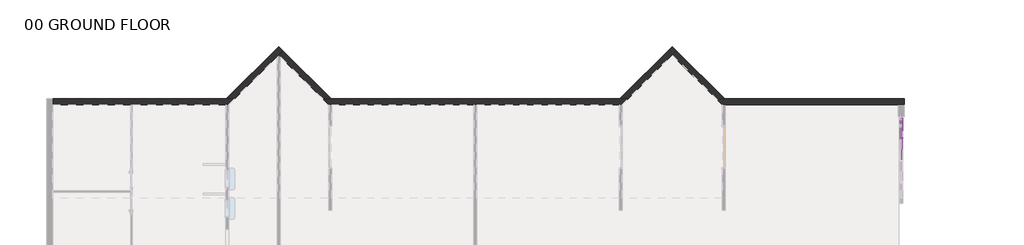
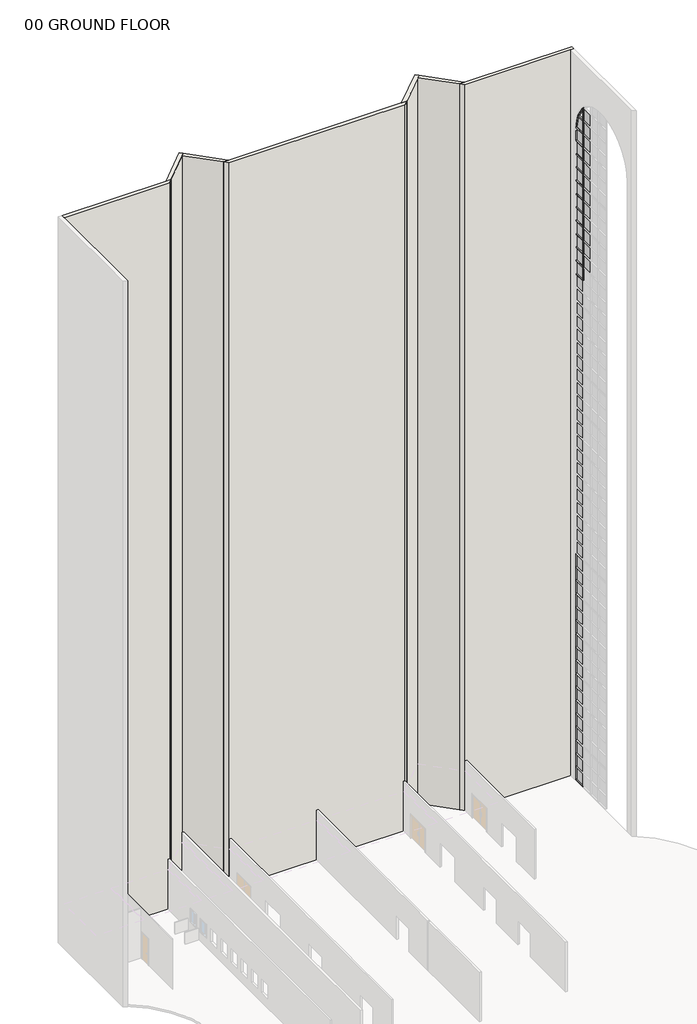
# One storey, part 32 of 33: 62 plates, 48 members, 7 walls.
"""IFC4 building model written with IfcOpenShell, lengths in millimetres."""

from ifc_helpers import new_model, si_unit, origin, origin_with_axes, place, context, project, spatial, polyline, outline, extrude, faceted_brep, transform, mapped, element, save
from components import member_c8ecf2e3, member_c70f70ef, member_2b49869a, member_daa0d148, member_ba1b3d85, member_7098706b, member_828826df, member_e05e2410, member_c2258df4, member_73c23c35, member_75074519, system_panel_glazed_32064c29, system_panel_glazed_ab954ee1, system_panel_glazed_ba000c98, system_panel_glazed_9b633421, system_panel_glazed_97e10390

model = new_model("IFC4")

# Units and contexts
model_context = context("Model", 3, world=origin())
ifc_project = project(units=[si_unit("LENGTHUNIT", "METRE", prefix="MILLI")], contexts=[model_context])

# Site, building, storey
site = spatial("IfcSite", under=ifc_project)
building = spatial("IfcBuilding", under=site)
storey = spatial("IfcBuildingStorey", under=building, Name="00 GROUND FLOOR", Elevation=0.0)

# Members
placement = place(None, origin())
member_shape = member_c8ecf2e3(model_context)
element("IfcMember", 1, ObjectType="Rectangular Mullion : 2.5\" x 5\" rectangular", at=placement, inside=storey, context=model_context, shape_type="MappedRepresentation", body=[
    mapped(member_shape, transform((44184.4050515, 33010.475, 0.0), x_axis=(0.0, 0.0, -1.0), y_axis=(-1.0, 0.0, 0.0), z_axis=(0.0, 1.0, 0.0))),
])
member_2_shape = member_c70f70ef(model_context)
element("IfcMember", 2, ObjectType="Rectangular Mullion : 2.5\" x 5\" rectangular", at=placement, inside=storey, context=model_context, shape_type="MappedRepresentation", body=[
    mapped(member_2_shape, transform((44184.4050515, 31973.6107141, 46329.6), x_axis=(0.0, 0.0, 1.0), y_axis=(-1.0, 0.0, 0.0), z_axis=(0.0, -1.0, 0.0))),
])
element("IfcMember", 3, ObjectType="Rectangular Mullion : 2.5\" x 5\" rectangular", at=placement, inside=storey, context=model_context, shape_type="MappedRepresentation", body=[
    mapped(member_2_shape, transform((44184.4050515, 31973.6107141, 47548.8), x_axis=(0.0, 0.0, 1.0), y_axis=(-1.0, 0.0, 0.0), z_axis=(0.0, -1.0, 0.0))),
])
element("IfcMember", 4, ObjectType="Rectangular Mullion : 2.5\" x 5\" rectangular", at=placement, inside=storey, context=model_context, shape_type="MappedRepresentation", body=[
    mapped(member_2_shape, transform((44184.4050515, 31973.6107141, 48768.0), x_axis=(0.0, 0.0, 1.0), y_axis=(-1.0, 0.0, 0.0), z_axis=(0.0, -1.0, 0.0))),
])
element("IfcMember", 5, ObjectType="Rectangular Mullion : 2.5\" x 5\" rectangular", at=placement, inside=storey, context=model_context, shape_type="MappedRepresentation", body=[
    mapped(member_2_shape, transform((44184.4050515, 31973.6107141, 49987.2), x_axis=(0.0, 0.0, 1.0), y_axis=(-1.0, 0.0, 0.0), z_axis=(0.0, -1.0, 0.0))),
])
element("IfcMember", 6, ObjectType="Rectangular Mullion : 2.5\" x 5\" rectangular", at=placement, inside=storey, context=model_context, shape_type="MappedRepresentation", body=[
    mapped(member_2_shape, transform((44184.4050515, 31973.6107141, 51206.4), x_axis=(0.0, 0.0, 1.0), y_axis=(-1.0, 0.0, 0.0), z_axis=(0.0, -1.0, 0.0))),
])
element("IfcMember", 7, ObjectType="Rectangular Mullion : 2.5\" x 5\" rectangular", at=placement, inside=storey, context=model_context, shape_type="MappedRepresentation", body=[
    mapped(member_2_shape, transform((44184.4050515, 31973.6107141, 52425.6), x_axis=(0.0, 0.0, 1.0), y_axis=(-1.0, 0.0, 0.0), z_axis=(0.0, -1.0, 0.0))),
])
element("IfcMember", 8, ObjectType="Rectangular Mullion : 2.5\" x 5\" rectangular", at=placement, inside=storey, context=model_context, shape_type="MappedRepresentation", body=[
    mapped(member_2_shape, transform((44184.4050515, 31973.6107141, 53644.8), x_axis=(0.0, 0.0, 1.0), y_axis=(-1.0, 0.0, 0.0), z_axis=(0.0, -1.0, 0.0))),
])
element("IfcMember", 9, ObjectType="Rectangular Mullion : 2.5\" x 5\" rectangular", at=placement, inside=storey, context=model_context, shape_type="MappedRepresentation", body=[
    mapped(member_2_shape, transform((44184.4050515, 31973.6107141, 54864.0), x_axis=(0.0, 0.0, 1.0), y_axis=(-1.0, 0.0, 0.0), z_axis=(0.0, -1.0, 0.0))),
])
element("IfcMember", 10, ObjectType="Rectangular Mullion : 2.5\" x 5\" rectangular", at=placement, inside=storey, context=model_context, shape_type="MappedRepresentation", body=[
    mapped(member_2_shape, transform((44184.4050515, 31973.6107141, 56083.2), x_axis=(0.0, 0.0, 1.0), y_axis=(-1.0, 0.0, 0.0), z_axis=(0.0, -1.0, 0.0))),
])
element("IfcMember", 11, ObjectType="Rectangular Mullion : 2.5\" x 5\" rectangular", at=placement, inside=storey, context=model_context, shape_type="MappedRepresentation", body=[
    mapped(member_2_shape, transform((44184.4050515, 31973.6107141, 57302.4), x_axis=(0.0, 0.0, 1.0), y_axis=(-1.0, 0.0, 0.0), z_axis=(0.0, -1.0, 0.0))),
])
element("IfcMember", 12, ObjectType="Rectangular Mullion : 2.5\" x 5\" rectangular", at=placement, inside=storey, context=model_context, shape_type="MappedRepresentation", body=[
    mapped(member_2_shape, transform((44184.4050515, 31973.6107141, 58521.6), x_axis=(0.0, 0.0, 1.0), y_axis=(-1.0, 0.0, 0.0), z_axis=(0.0, -1.0, 0.0))),
])
member_3_shape = member_2b49869a(model_context)
element("IfcMember", 13, ObjectType="Rectangular Mullion : 2.5\" x 5\" rectangular", at=placement, inside=storey, context=model_context, shape_type="MappedRepresentation", body=[
    mapped(member_3_shape, transform((44184.4050515, 31941.8607141, 46329.6), x_axis=(0.0, -1.0, 0.0), y_axis=(-1.0, 0.0, 0.0), z_axis=(0.0, 0.0, -1.0))),
])
element("IfcMember", 14, ObjectType="Rectangular Mullion : 2.5\" x 5\" rectangular", at=placement, inside=storey, context=model_context, shape_type="MappedRepresentation", body=[
    mapped(member_3_shape, transform((44184.4050515, 31941.8607141, 47548.8), x_axis=(0.0, -1.0, 0.0), y_axis=(-1.0, 0.0, 0.0), z_axis=(0.0, 0.0, -1.0))),
])
element("IfcMember", 15, ObjectType="Rectangular Mullion : 2.5\" x 5\" rectangular", at=placement, inside=storey, context=model_context, shape_type="MappedRepresentation", body=[
    mapped(member_3_shape, transform((44184.4050515, 31941.8607141, 48768.0), x_axis=(0.0, -1.0, 0.0), y_axis=(-1.0, 0.0, 0.0), z_axis=(0.0, 0.0, -1.0))),
])
element("IfcMember", 16, ObjectType="Rectangular Mullion : 2.5\" x 5\" rectangular", at=placement, inside=storey, context=model_context, shape_type="MappedRepresentation", body=[
    mapped(member_3_shape, transform((44184.4050515, 31941.8607141, 49987.2), x_axis=(0.0, -1.0, 0.0), y_axis=(-1.0, 0.0, 0.0), z_axis=(0.0, 0.0, -1.0))),
])
element("IfcMember", 17, ObjectType="Rectangular Mullion : 2.5\" x 5\" rectangular", at=placement, inside=storey, context=model_context, shape_type="MappedRepresentation", body=[
    mapped(member_3_shape, transform((44184.4050515, 31941.8607141, 51206.4), x_axis=(0.0, -1.0, 0.0), y_axis=(-1.0, 0.0, 0.0), z_axis=(0.0, 0.0, -1.0))),
])
element("IfcMember", 18, ObjectType="Rectangular Mullion : 2.5\" x 5\" rectangular", at=placement, inside=storey, context=model_context, shape_type="MappedRepresentation", body=[
    mapped(member_3_shape, transform((44184.4050515, 31941.8607141, 52425.6), x_axis=(0.0, -1.0, 0.0), y_axis=(-1.0, 0.0, 0.0), z_axis=(0.0, 0.0, -1.0))),
])
element("IfcMember", 19, ObjectType="Rectangular Mullion : 2.5\" x 5\" rectangular", at=placement, inside=storey, context=model_context, shape_type="MappedRepresentation", body=[
    mapped(member_3_shape, transform((44184.4050515, 31941.8607141, 53644.8), x_axis=(0.0, -1.0, 0.0), y_axis=(-1.0, 0.0, 0.0), z_axis=(0.0, 0.0, -1.0))),
])
element("IfcMember", 20, ObjectType="Rectangular Mullion : 2.5\" x 5\" rectangular", at=placement, inside=storey, context=model_context, shape_type="MappedRepresentation", body=[
    mapped(member_3_shape, transform((44184.4050515, 31941.8607141, 54864.0), x_axis=(0.0, -1.0, 0.0), y_axis=(-1.0, 0.0, 0.0), z_axis=(0.0, 0.0, -1.0))),
])
element("IfcMember", 21, ObjectType="Rectangular Mullion : 2.5\" x 5\" rectangular", at=placement, inside=storey, context=model_context, shape_type="MappedRepresentation", body=[
    mapped(member_3_shape, transform((44184.4050515, 31941.8607141, 56083.2), x_axis=(0.0, -1.0, 0.0), y_axis=(-1.0, 0.0, 0.0), z_axis=(0.0, 0.0, -1.0))),
])
element("IfcMember", 22, ObjectType="Rectangular Mullion : 2.5\" x 5\" rectangular", at=placement, inside=storey, context=model_context, shape_type="MappedRepresentation", body=[
    mapped(member_3_shape, transform((44184.4050515, 31941.8607141, 57302.4), x_axis=(0.0, -1.0, 0.0), y_axis=(-1.0, 0.0, 0.0), z_axis=(0.0, 0.0, -1.0))),
])
element("IfcMember", 23, ObjectType="Rectangular Mullion : 2.5\" x 5\" rectangular", at=placement, inside=storey, context=model_context, shape_type="MappedRepresentation", body=[
    mapped(member_3_shape, transform((44184.4050515, 31941.8607141, 58521.6), x_axis=(0.0, -1.0, 0.0), y_axis=(-1.0, 0.0, 0.0), z_axis=(0.0, 0.0, -1.0))),
])
element("IfcMember", 24, ObjectType="Rectangular Mullion : 2.5\" x 5\" rectangular", at=placement, inside=storey, context=model_context, shape_type="MappedRepresentation", body=[
    mapped(member_3_shape, transform((44184.4050515, 31941.8607141, 59740.8), x_axis=(0.0, -1.0, 0.0), y_axis=(-1.0, 0.0, 0.0), z_axis=(0.0, 0.0, -1.0))),
])
member_4_shape = member_daa0d148(model_context)
element("IfcMember", 25, ObjectType="Rectangular Mullion : 2.5\" x 5\" rectangular", at=placement, inside=storey, context=model_context, shape_type="MappedRepresentation", body=[
    mapped(member_4_shape, transform((44184.4050515, 31941.8607141, 62209.1023307), x_axis=(0.0, 0.7142857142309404, 0.6998542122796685), y_axis=(-1.0, 0.0, 0.0), z_axis=(0.0, -0.6998542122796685, 0.7142857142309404))),
])
member_5_shape = member_ba1b3d85(model_context)
element("IfcMember", 26, ObjectType="Rectangular Mullion : 2.5\" x 5\" rectangular", at=placement, inside=storey, context=model_context, shape_type="MappedRepresentation", body=[
    mapped(member_5_shape, transform((44184.4050515, 31941.8607141, 60960.0), x_axis=(0.0, -1.0, 0.0), y_axis=(-1.0, 0.0, 0.0), z_axis=(0.0, 0.0, -1.0))),
])
member_6_shape = member_7098706b(model_context)
element("IfcMember", 27, ObjectType="Rectangular Mullion : 2.5\" x 5\" rectangular", at=placement, inside=storey, context=model_context, shape_type="MappedRepresentation", body=[
    mapped(member_6_shape, transform((44184.4050515, 32769.175, 60960.0), x_axis=(0.0, 0.9230769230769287, 0.3846153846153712), y_axis=(-1.0, 0.0, 0.0), z_axis=(0.0, -0.3846153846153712, 0.9230769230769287))),
])
member_7_shape = member_828826df(model_context)
element("IfcMember", 28, ObjectType="Rectangular Mullion : 2.5\" x 5\" rectangular", at=placement, inside=storey, context=model_context, shape_type="MappedRepresentation", body=[
    mapped(member_7_shape, transform((44184.4050515, 31970.8524472, 62179.2), x_axis=(0.0, 0.7216024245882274, 0.6923076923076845), y_axis=(-1.0, 0.0, 0.0), z_axis=(0.0, -0.6923076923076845, 0.7216024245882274))),
])
member_8_shape = member_e05e2410(model_context)
element("IfcMember", 29, ObjectType="Rectangular Mullion : 2.5\" x 5\" rectangular", at=placement, inside=storey, context=model_context, shape_type="MappedRepresentation", body=[
    mapped(member_8_shape, transform((44184.4050515, 31973.6107141, 59740.8), x_axis=(0.0, 0.0, 1.0), y_axis=(-1.0, 0.0, 0.0), z_axis=(0.0, -1.0, 0.0))),
])
member_9_shape = member_c2258df4(model_context)
element("IfcMember", 30, ObjectType="Rectangular Mullion : 2.5\" x 5\" rectangular", at=placement, inside=storey, context=model_context, shape_type="MappedRepresentation", body=[
    mapped(member_9_shape, transform((44184.4050515, 31973.6107141, 60960.0), x_axis=(0.0, 0.0, 1.0), y_axis=(-1.0, 0.0, 0.0), z_axis=(0.0, -1.0, 0.0))),
])
member_10_shape = member_73c23c35(model_context)
element("IfcMember", 31, ObjectType="Rectangular Mullion : 2.5\" x 5\" rectangular", at=placement, inside=storey, context=model_context, shape_type="MappedRepresentation", body=[
    mapped(member_10_shape, transform((44184.4050515, 33073.975, 59436.0), x_axis=(0.0, 1.0, 0.0), y_axis=(-1.0, 0.0, 0.0), z_axis=(0.0, 0.0, 1.0))),
])
member_11_shape = member_75074519(model_context)
element("IfcMember", 32, ObjectType="Rectangular Mullion : 2.5\" x 5\" rectangular", at=placement, inside=storey, context=model_context, shape_type="MappedRepresentation", body=[
    mapped(member_11_shape, transform((44184.4050515, 33073.975, 1219.2), x_axis=(0.0, 1.0, 0.0), y_axis=(-1.0, 0.0, 0.0), z_axis=(0.0, 0.0, 1.0))),
])
element("IfcMember", 33, ObjectType="Rectangular Mullion : 2.5\" x 5\" rectangular", at=placement, inside=storey, context=model_context, shape_type="MappedRepresentation", body=[
    mapped(member_11_shape, transform((44184.4050515, 33073.975, 2438.4), x_axis=(0.0, 1.0, 0.0), y_axis=(-1.0, 0.0, 0.0), z_axis=(0.0, 0.0, 1.0))),
])
element("IfcMember", 34, ObjectType="Rectangular Mullion : 2.5\" x 5\" rectangular", at=placement, inside=storey, context=model_context, shape_type="MappedRepresentation", body=[
    mapped(member_11_shape, transform((44184.4050515, 33073.975, 3657.6), x_axis=(0.0, 1.0, 0.0), y_axis=(-1.0, 0.0, 0.0), z_axis=(0.0, 0.0, 1.0))),
])
element("IfcMember", 35, ObjectType="Rectangular Mullion : 2.5\" x 5\" rectangular", at=placement, inside=storey, context=model_context, shape_type="MappedRepresentation", body=[
    mapped(member_11_shape, transform((44184.4050515, 33073.975, 4876.8), x_axis=(0.0, 1.0, 0.0), y_axis=(-1.0, 0.0, 0.0), z_axis=(0.0, 0.0, 1.0))),
])
element("IfcMember", 36, ObjectType="Rectangular Mullion : 2.5\" x 5\" rectangular", at=placement, inside=storey, context=model_context, shape_type="MappedRepresentation", body=[
    mapped(member_11_shape, transform((44184.4050515, 33073.975, 6096.0), x_axis=(0.0, 1.0, 0.0), y_axis=(-1.0, 0.0, 0.0), z_axis=(0.0, 0.0, 1.0))),
])
element("IfcMember", 37, ObjectType="Rectangular Mullion : 2.5\" x 5\" rectangular", at=placement, inside=storey, context=model_context, shape_type="MappedRepresentation", body=[
    mapped(member_11_shape, transform((44184.4050515, 33073.975, 7315.2), x_axis=(0.0, 1.0, 0.0), y_axis=(-1.0, 0.0, 0.0), z_axis=(0.0, 0.0, 1.0))),
])
element("IfcMember", 38, ObjectType="Rectangular Mullion : 2.5\" x 5\" rectangular", at=placement, inside=storey, context=model_context, shape_type="MappedRepresentation", body=[
    mapped(member_11_shape, transform((44184.4050515, 33073.975, 8534.4), x_axis=(0.0, 1.0, 0.0), y_axis=(-1.0, 0.0, 0.0), z_axis=(0.0, 0.0, 1.0))),
])
element("IfcMember", 39, ObjectType="Rectangular Mullion : 2.5\" x 5\" rectangular", at=placement, inside=storey, context=model_context, shape_type="MappedRepresentation", body=[
    mapped(member_11_shape, transform((44184.4050515, 33073.975, 9753.6), x_axis=(0.0, 1.0, 0.0), y_axis=(-1.0, 0.0, 0.0), z_axis=(0.0, 0.0, 1.0))),
])
element("IfcMember", 40, ObjectType="Rectangular Mullion : 2.5\" x 5\" rectangular", at=placement, inside=storey, context=model_context, shape_type="MappedRepresentation", body=[
    mapped(member_11_shape, transform((44184.4050515, 33073.975, 10972.8), x_axis=(0.0, 1.0, 0.0), y_axis=(-1.0, 0.0, 0.0), z_axis=(0.0, 0.0, 1.0))),
])
element("IfcMember", 41, ObjectType="Rectangular Mullion : 2.5\" x 5\" rectangular", at=placement, inside=storey, context=model_context, shape_type="MappedRepresentation", body=[
    mapped(member_11_shape, transform((44184.4050515, 33073.975, 12192.0), x_axis=(0.0, 1.0, 0.0), y_axis=(-1.0, 0.0, 0.0), z_axis=(0.0, 0.0, 1.0))),
])
element("IfcMember", 42, ObjectType="Rectangular Mullion : 2.5\" x 5\" rectangular", at=placement, inside=storey, context=model_context, shape_type="MappedRepresentation", body=[
    mapped(member_11_shape, transform((44184.4050515, 33073.975, 13411.2), x_axis=(0.0, 1.0, 0.0), y_axis=(-1.0, 0.0, 0.0), z_axis=(0.0, 0.0, 1.0))),
])
element("IfcMember", 43, ObjectType="Rectangular Mullion : 2.5\" x 5\" rectangular", at=placement, inside=storey, context=model_context, shape_type="MappedRepresentation", body=[
    mapped(member_11_shape, transform((44184.4050515, 33073.975, 14630.4), x_axis=(0.0, 1.0, 0.0), y_axis=(-1.0, 0.0, 0.0), z_axis=(0.0, 0.0, 1.0))),
])
element("IfcMember", 44, ObjectType="Rectangular Mullion : 2.5\" x 5\" rectangular", at=placement, inside=storey, context=model_context, shape_type="MappedRepresentation", body=[
    mapped(member_11_shape, transform((44184.4050515, 33073.975, 15849.6), x_axis=(0.0, 1.0, 0.0), y_axis=(-1.0, 0.0, 0.0), z_axis=(0.0, 0.0, 1.0))),
])
element("IfcMember", 45, ObjectType="Rectangular Mullion : 2.5\" x 5\" rectangular", at=placement, inside=storey, context=model_context, shape_type="MappedRepresentation", body=[
    mapped(member_11_shape, transform((44184.4050515, 33073.975, 17068.8), x_axis=(0.0, 1.0, 0.0), y_axis=(-1.0, 0.0, 0.0), z_axis=(0.0, 0.0, 1.0))),
])
element("IfcMember", 46, ObjectType="Rectangular Mullion : 2.5\" x 5\" rectangular", at=placement, inside=storey, context=model_context, shape_type="MappedRepresentation", body=[
    mapped(member_11_shape, transform((44184.4050515, 33073.975, 18288.0), x_axis=(0.0, 1.0, 0.0), y_axis=(-1.0, 0.0, 0.0), z_axis=(0.0, 0.0, 1.0))),
])
element("IfcMember", 47, ObjectType="Rectangular Mullion : 2.5\" x 5\" rectangular", at=placement, inside=storey, context=model_context, shape_type="MappedRepresentation", body=[
    mapped(member_11_shape, transform((44184.4050515, 33073.975, 19507.2), x_axis=(0.0, 1.0, 0.0), y_axis=(-1.0, 0.0, 0.0), z_axis=(0.0, 0.0, 1.0))),
])
element("IfcMember", 48, ObjectType="Rectangular Mullion : 2.5\" x 5\" rectangular", at=placement, inside=storey, context=model_context, shape_type="MappedRepresentation", body=[
    mapped(member_11_shape, transform((44184.4050515, 33073.975, 20726.4), x_axis=(0.0, 1.0, 0.0), y_axis=(-1.0, 0.0, 0.0), z_axis=(0.0, 0.0, 1.0))),
])

# Plates
system_panel_glazed_shape = system_panel_glazed_32064c29(model_context)
element("IfcPlate", 49, ObjectType="System Panel : Glazed", at=placement, inside=storey, context=model_context, shape_type="MappedRepresentation", body=[
    mapped(system_panel_glazed_shape, transform((44184.4050515, 32492.042857, 63.5), x_axis=(0.0, -1.0, 0.0), y_axis=(1.0, 0.0, 0.0), z_axis=(0.0, 0.0, 1.0))),
])
system_panel_glazed_2_shape = system_panel_glazed_ab954ee1(model_context)
element("IfcPlate", 50, ObjectType="System Panel : Glazed", at=placement, inside=storey, context=model_context, shape_type="MappedRepresentation", body=[
    mapped(system_panel_glazed_2_shape, transform((44184.4050515, 32492.042857, 1250.95), x_axis=(0.0, -1.0, 0.0), y_axis=(1.0, 0.0, 0.0), z_axis=(0.0, 0.0, 1.0))),
])
element("IfcPlate", 51, ObjectType="System Panel : Glazed", at=placement, inside=storey, context=model_context, shape_type="MappedRepresentation", body=[
    mapped(system_panel_glazed_2_shape, transform((44184.4050515, 32492.042857, 2470.15), x_axis=(0.0, -1.0, 0.0), y_axis=(1.0, 0.0, 0.0), z_axis=(0.0, 0.0, 1.0))),
])
element("IfcPlate", 52, ObjectType="System Panel : Glazed", at=placement, inside=storey, context=model_context, shape_type="MappedRepresentation", body=[
    mapped(system_panel_glazed_2_shape, transform((44184.4050515, 32492.042857, 3689.35), x_axis=(0.0, -1.0, 0.0), y_axis=(1.0, 0.0, 0.0), z_axis=(0.0, 0.0, 1.0))),
])
element("IfcPlate", 53, ObjectType="System Panel : Glazed", at=placement, inside=storey, context=model_context, shape_type="MappedRepresentation", body=[
    mapped(system_panel_glazed_2_shape, transform((44184.4050515, 32492.042857, 4908.55), x_axis=(0.0, -1.0, 0.0), y_axis=(1.0, 0.0, 0.0), z_axis=(0.0, 0.0, 1.0))),
])
element("IfcPlate", 54, ObjectType="System Panel : Glazed", at=placement, inside=storey, context=model_context, shape_type="MappedRepresentation", body=[
    mapped(system_panel_glazed_2_shape, transform((44184.4050515, 32492.042857, 6127.75), x_axis=(0.0, -1.0, 0.0), y_axis=(1.0, 0.0, 0.0), z_axis=(0.0, 0.0, 1.0))),
])
element("IfcPlate", 55, ObjectType="System Panel : Glazed", at=placement, inside=storey, context=model_context, shape_type="MappedRepresentation", body=[
    mapped(system_panel_glazed_2_shape, transform((44184.4050515, 32492.042857, 7346.95), x_axis=(0.0, -1.0, 0.0), y_axis=(1.0, 0.0, 0.0), z_axis=(0.0, 0.0, 1.0))),
])
element("IfcPlate", 56, ObjectType="System Panel : Glazed", at=placement, inside=storey, context=model_context, shape_type="MappedRepresentation", body=[
    mapped(system_panel_glazed_2_shape, transform((44184.4050515, 32492.042857, 8566.15), x_axis=(0.0, -1.0, 0.0), y_axis=(1.0, 0.0, 0.0), z_axis=(0.0, 0.0, 1.0))),
])
element("IfcPlate", 57, ObjectType="System Panel : Glazed", at=placement, inside=storey, context=model_context, shape_type="MappedRepresentation", body=[
    mapped(system_panel_glazed_2_shape, transform((44184.4050515, 32492.042857, 9785.35), x_axis=(0.0, -1.0, 0.0), y_axis=(1.0, 0.0, 0.0), z_axis=(0.0, 0.0, 1.0))),
])
element("IfcPlate", 58, ObjectType="System Panel : Glazed", at=placement, inside=storey, context=model_context, shape_type="MappedRepresentation", body=[
    mapped(system_panel_glazed_2_shape, transform((44184.4050515, 32492.042857, 11004.55), x_axis=(0.0, -1.0, 0.0), y_axis=(1.0, 0.0, 0.0), z_axis=(0.0, 0.0, 1.0))),
])
element("IfcPlate", 59, ObjectType="System Panel : Glazed", at=placement, inside=storey, context=model_context, shape_type="MappedRepresentation", body=[
    mapped(system_panel_glazed_2_shape, transform((44184.4050515, 32492.042857, 12223.75), x_axis=(0.0, -1.0, 0.0), y_axis=(1.0, 0.0, 0.0), z_axis=(0.0, 0.0, 1.0))),
])
element("IfcPlate", 60, ObjectType="System Panel : Glazed", at=placement, inside=storey, context=model_context, shape_type="MappedRepresentation", body=[
    mapped(system_panel_glazed_2_shape, transform((44184.4050515, 32492.042857, 13442.95), x_axis=(0.0, -1.0, 0.0), y_axis=(1.0, 0.0, 0.0), z_axis=(0.0, 0.0, 1.0))),
])
element("IfcPlate", 61, ObjectType="System Panel : Glazed", at=placement, inside=storey, context=model_context, shape_type="MappedRepresentation", body=[
    mapped(system_panel_glazed_2_shape, transform((44184.4050515, 32492.042857, 14662.15), x_axis=(0.0, -1.0, 0.0), y_axis=(1.0, 0.0, 0.0), z_axis=(0.0, 0.0, 1.0))),
])
element("IfcPlate", 62, ObjectType="System Panel : Glazed", at=placement, inside=storey, context=model_context, shape_type="MappedRepresentation", body=[
    mapped(system_panel_glazed_2_shape, transform((44184.4050515, 32492.042857, 15881.35), x_axis=(0.0, -1.0, 0.0), y_axis=(1.0, 0.0, 0.0), z_axis=(0.0, 0.0, 1.0))),
])
element("IfcPlate", 63, ObjectType="System Panel : Glazed", at=placement, inside=storey, context=model_context, shape_type="MappedRepresentation", body=[
    mapped(system_panel_glazed_2_shape, transform((44184.4050515, 32492.042857, 17100.55), x_axis=(0.0, -1.0, 0.0), y_axis=(1.0, 0.0, 0.0), z_axis=(0.0, 0.0, 1.0))),
])
element("IfcPlate", 64, ObjectType="System Panel : Glazed", at=placement, inside=storey, context=model_context, shape_type="MappedRepresentation", body=[
    mapped(system_panel_glazed_2_shape, transform((44184.4050515, 32492.042857, 18319.75), x_axis=(0.0, -1.0, 0.0), y_axis=(1.0, 0.0, 0.0), z_axis=(0.0, 0.0, 1.0))),
])
element("IfcPlate", 65, ObjectType="System Panel : Glazed", at=placement, inside=storey, context=model_context, shape_type="MappedRepresentation", body=[
    mapped(system_panel_glazed_2_shape, transform((44184.4050515, 32492.042857, 19538.95), x_axis=(0.0, -1.0, 0.0), y_axis=(1.0, 0.0, 0.0), z_axis=(0.0, 0.0, 1.0))),
])
element("IfcPlate", 66, ObjectType="System Panel : Glazed", at=placement, inside=storey, context=model_context, shape_type="MappedRepresentation", body=[
    mapped(system_panel_glazed_2_shape, transform((44184.4050515, 32492.042857, 20758.15), x_axis=(0.0, -1.0, 0.0), y_axis=(1.0, 0.0, 0.0), z_axis=(0.0, 0.0, 1.0))),
])
element("IfcPlate", 67, ObjectType="System Panel : Glazed", at=placement, inside=storey, context=model_context, shape_type="MappedRepresentation", body=[
    mapped(system_panel_glazed_2_shape, transform((44184.4050515, 32492.042857, 21977.35), x_axis=(0.0, -1.0, 0.0), y_axis=(1.0, 0.0, 0.0), z_axis=(0.0, 0.0, 1.0))),
])
element("IfcPlate", 68, ObjectType="System Panel : Glazed", at=placement, inside=storey, context=model_context, shape_type="MappedRepresentation", body=[
    mapped(system_panel_glazed_2_shape, transform((44184.4050515, 32492.042857, 23196.55), x_axis=(0.0, -1.0, 0.0), y_axis=(1.0, 0.0, 0.0), z_axis=(0.0, 0.0, 1.0))),
])
element("IfcPlate", 69, ObjectType="System Panel : Glazed", at=placement, inside=storey, context=model_context, shape_type="MappedRepresentation", body=[
    mapped(system_panel_glazed_2_shape, transform((44184.4050515, 32492.042857, 24415.75), x_axis=(0.0, -1.0, 0.0), y_axis=(1.0, 0.0, 0.0), z_axis=(0.0, 0.0, 1.0))),
])
element("IfcPlate", 70, ObjectType="System Panel : Glazed", at=placement, inside=storey, context=model_context, shape_type="MappedRepresentation", body=[
    mapped(system_panel_glazed_2_shape, transform((44184.4050515, 32492.042857, 25634.95), x_axis=(0.0, -1.0, 0.0), y_axis=(1.0, 0.0, 0.0), z_axis=(0.0, 0.0, 1.0))),
])
element("IfcPlate", 71, ObjectType="System Panel : Glazed", at=placement, inside=storey, context=model_context, shape_type="MappedRepresentation", body=[
    mapped(system_panel_glazed_2_shape, transform((44184.4050515, 32492.042857, 26854.15), x_axis=(0.0, -1.0, 0.0), y_axis=(1.0, 0.0, 0.0), z_axis=(0.0, 0.0, 1.0))),
])
element("IfcPlate", 72, ObjectType="System Panel : Glazed", at=placement, inside=storey, context=model_context, shape_type="MappedRepresentation", body=[
    mapped(system_panel_glazed_2_shape, transform((44184.4050515, 32492.042857, 28073.35), x_axis=(0.0, -1.0, 0.0), y_axis=(1.0, 0.0, 0.0), z_axis=(0.0, 0.0, 1.0))),
])
element("IfcPlate", 73, ObjectType="System Panel : Glazed", at=placement, inside=storey, context=model_context, shape_type="MappedRepresentation", body=[
    mapped(system_panel_glazed_2_shape, transform((44184.4050515, 32492.042857, 29292.55), x_axis=(0.0, -1.0, 0.0), y_axis=(1.0, 0.0, 0.0), z_axis=(0.0, 0.0, 1.0))),
])
element("IfcPlate", 74, ObjectType="System Panel : Glazed", at=placement, inside=storey, context=model_context, shape_type="MappedRepresentation", body=[
    mapped(system_panel_glazed_2_shape, transform((44184.4050515, 32492.042857, 30511.75), x_axis=(0.0, -1.0, 0.0), y_axis=(1.0, 0.0, 0.0), z_axis=(0.0, 0.0, 1.0))),
])
element("IfcPlate", 75, ObjectType="System Panel : Glazed", at=placement, inside=storey, context=model_context, shape_type="MappedRepresentation", body=[
    mapped(system_panel_glazed_2_shape, transform((44184.4050515, 32492.042857, 31730.95), x_axis=(0.0, -1.0, 0.0), y_axis=(1.0, 0.0, 0.0), z_axis=(0.0, 0.0, 1.0))),
])
element("IfcPlate", 76, ObjectType="System Panel : Glazed", at=placement, inside=storey, context=model_context, shape_type="MappedRepresentation", body=[
    mapped(system_panel_glazed_2_shape, transform((44184.4050515, 32492.042857, 32950.15), x_axis=(0.0, -1.0, 0.0), y_axis=(1.0, 0.0, 0.0), z_axis=(0.0, 0.0, 1.0))),
])
element("IfcPlate", 77, ObjectType="System Panel : Glazed", at=placement, inside=storey, context=model_context, shape_type="MappedRepresentation", body=[
    mapped(system_panel_glazed_2_shape, transform((44184.4050515, 32492.042857, 34169.35), x_axis=(0.0, -1.0, 0.0), y_axis=(1.0, 0.0, 0.0), z_axis=(0.0, 0.0, 1.0))),
])
element("IfcPlate", 78, ObjectType="System Panel : Glazed", at=placement, inside=storey, context=model_context, shape_type="MappedRepresentation", body=[
    mapped(system_panel_glazed_2_shape, transform((44184.4050515, 32492.042857, 35388.55), x_axis=(0.0, -1.0, 0.0), y_axis=(1.0, 0.0, 0.0), z_axis=(0.0, 0.0, 1.0))),
])
element("IfcPlate", 79, ObjectType="System Panel : Glazed", at=placement, inside=storey, context=model_context, shape_type="MappedRepresentation", body=[
    mapped(system_panel_glazed_2_shape, transform((44184.4050515, 32492.042857, 36607.75), x_axis=(0.0, -1.0, 0.0), y_axis=(1.0, 0.0, 0.0), z_axis=(0.0, 0.0, 1.0))),
])
element("IfcPlate", 80, ObjectType="System Panel : Glazed", at=placement, inside=storey, context=model_context, shape_type="MappedRepresentation", body=[
    mapped(system_panel_glazed_2_shape, transform((44184.4050515, 32492.042857, 37826.95), x_axis=(0.0, -1.0, 0.0), y_axis=(1.0, 0.0, 0.0), z_axis=(0.0, 0.0, 1.0))),
])
element("IfcPlate", 81, ObjectType="System Panel : Glazed", at=placement, inside=storey, context=model_context, shape_type="MappedRepresentation", body=[
    mapped(system_panel_glazed_2_shape, transform((44184.4050515, 32492.042857, 39046.15), x_axis=(0.0, -1.0, 0.0), y_axis=(1.0, 0.0, 0.0), z_axis=(0.0, 0.0, 1.0))),
])
element("IfcPlate", 82, ObjectType="System Panel : Glazed", at=placement, inside=storey, context=model_context, shape_type="MappedRepresentation", body=[
    mapped(system_panel_glazed_2_shape, transform((44184.4050515, 32492.042857, 40265.35), x_axis=(0.0, -1.0, 0.0), y_axis=(1.0, 0.0, 0.0), z_axis=(0.0, 0.0, 1.0))),
])
element("IfcPlate", 83, ObjectType="System Panel : Glazed", at=placement, inside=storey, context=model_context, shape_type="MappedRepresentation", body=[
    mapped(system_panel_glazed_2_shape, transform((44184.4050515, 32492.042857, 41484.55), x_axis=(0.0, -1.0, 0.0), y_axis=(1.0, 0.0, 0.0), z_axis=(0.0, 0.0, 1.0))),
])
element("IfcPlate", 84, ObjectType="System Panel : Glazed", at=placement, inside=storey, context=model_context, shape_type="MappedRepresentation", body=[
    mapped(system_panel_glazed_2_shape, transform((44184.4050515, 32492.042857, 42703.75), x_axis=(0.0, -1.0, 0.0), y_axis=(1.0, 0.0, 0.0), z_axis=(0.0, 0.0, 1.0))),
])
element("IfcPlate", 85, ObjectType="System Panel : Glazed", at=placement, inside=storey, context=model_context, shape_type="MappedRepresentation", body=[
    mapped(system_panel_glazed_2_shape, transform((44184.4050515, 32492.042857, 43922.95), x_axis=(0.0, -1.0, 0.0), y_axis=(1.0, 0.0, 0.0), z_axis=(0.0, 0.0, 1.0))),
])
element("IfcPlate", 86, ObjectType="System Panel : Glazed", at=placement, inside=storey, context=model_context, shape_type="MappedRepresentation", body=[
    mapped(system_panel_glazed_2_shape, transform((44184.4050515, 32492.042857, 45142.15), x_axis=(0.0, -1.0, 0.0), y_axis=(1.0, 0.0, 0.0), z_axis=(0.0, 0.0, 1.0))),
])
element("IfcPlate", 87, ObjectType="System Panel : Glazed", at=placement, inside=storey, context=model_context, shape_type="MappedRepresentation", body=[
    mapped(system_panel_glazed_2_shape, transform((44184.4050515, 32492.042857, 46361.35), x_axis=(0.0, -1.0, 0.0), y_axis=(1.0, 0.0, 0.0), z_axis=(0.0, 0.0, 1.0))),
])
element("IfcPlate", 88, ObjectType="System Panel : Glazed", at=placement, inside=storey, context=model_context, shape_type="MappedRepresentation", body=[
    mapped(system_panel_glazed_2_shape, transform((44184.4050515, 32492.042857, 47580.55), x_axis=(0.0, -1.0, 0.0), y_axis=(1.0, 0.0, 0.0), z_axis=(0.0, 0.0, 1.0))),
])
element("IfcPlate", 89, ObjectType="System Panel : Glazed", at=placement, inside=storey, context=model_context, shape_type="MappedRepresentation", body=[
    mapped(system_panel_glazed_2_shape, transform((44184.4050515, 32492.042857, 48799.75), x_axis=(0.0, -1.0, 0.0), y_axis=(1.0, 0.0, 0.0), z_axis=(0.0, 0.0, 1.0))),
])
element("IfcPlate", 90, ObjectType="System Panel : Glazed", at=placement, inside=storey, context=model_context, shape_type="MappedRepresentation", body=[
    mapped(system_panel_glazed_2_shape, transform((44184.4050515, 32492.042857, 50018.95), x_axis=(0.0, -1.0, 0.0), y_axis=(1.0, 0.0, 0.0), z_axis=(0.0, 0.0, 1.0))),
])
element("IfcPlate", 91, ObjectType="System Panel : Glazed", at=placement, inside=storey, context=model_context, shape_type="MappedRepresentation", body=[
    mapped(system_panel_glazed_2_shape, transform((44184.4050515, 32492.042857, 51238.15), x_axis=(0.0, -1.0, 0.0), y_axis=(1.0, 0.0, 0.0), z_axis=(0.0, 0.0, 1.0))),
])
element("IfcPlate", 92, ObjectType="System Panel : Glazed", at=placement, inside=storey, context=model_context, shape_type="MappedRepresentation", body=[
    mapped(system_panel_glazed_2_shape, transform((44184.4050515, 32492.042857, 52457.35), x_axis=(0.0, -1.0, 0.0), y_axis=(1.0, 0.0, 0.0), z_axis=(0.0, 0.0, 1.0))),
])
element("IfcPlate", 93, ObjectType="System Panel : Glazed", at=placement, inside=storey, context=model_context, shape_type="MappedRepresentation", body=[
    mapped(system_panel_glazed_2_shape, transform((44184.4050515, 32492.042857, 53676.55), x_axis=(0.0, -1.0, 0.0), y_axis=(1.0, 0.0, 0.0), z_axis=(0.0, 0.0, 1.0))),
])
element("IfcPlate", 94, ObjectType="System Panel : Glazed", at=placement, inside=storey, context=model_context, shape_type="MappedRepresentation", body=[
    mapped(system_panel_glazed_2_shape, transform((44184.4050515, 32492.042857, 54895.75), x_axis=(0.0, -1.0, 0.0), y_axis=(1.0, 0.0, 0.0), z_axis=(0.0, 0.0, 1.0))),
])
element("IfcPlate", 95, ObjectType="System Panel : Glazed", at=placement, inside=storey, context=model_context, shape_type="MappedRepresentation", body=[
    mapped(system_panel_glazed_2_shape, transform((44184.4050515, 32492.042857, 56114.95), x_axis=(0.0, -1.0, 0.0), y_axis=(1.0, 0.0, 0.0), z_axis=(0.0, 0.0, 1.0))),
])
element("IfcPlate", 96, ObjectType="System Panel : Glazed", at=placement, inside=storey, context=model_context, shape_type="MappedRepresentation", body=[
    mapped(system_panel_glazed_2_shape, transform((44184.4050515, 32492.042857, 57334.15), x_axis=(0.0, -1.0, 0.0), y_axis=(1.0, 0.0, 0.0), z_axis=(0.0, 0.0, 1.0))),
])
system_panel_glazed_3_shape = system_panel_glazed_ba000c98(model_context)
element("IfcPlate", 97, ObjectType="System Panel : Glazed", at=placement, inside=storey, context=model_context, shape_type="MappedRepresentation", body=[
    mapped(system_panel_glazed_3_shape, transform((44184.4050515, 31375.8035713, 47580.55), x_axis=(0.0, -1.0, 0.0), y_axis=(1.0, 0.0, 0.0), z_axis=(0.0, 0.0, 1.0))),
])
element("IfcPlate", 98, ObjectType="System Panel : Glazed", at=placement, inside=storey, context=model_context, shape_type="MappedRepresentation", body=[
    mapped(system_panel_glazed_3_shape, transform((44184.4050515, 31375.8035713, 48799.75), x_axis=(0.0, -1.0, 0.0), y_axis=(1.0, 0.0, 0.0), z_axis=(0.0, 0.0, 1.0))),
])
element("IfcPlate", 99, ObjectType="System Panel : Glazed", at=placement, inside=storey, context=model_context, shape_type="MappedRepresentation", body=[
    mapped(system_panel_glazed_3_shape, transform((44184.4050515, 31375.8035713, 50018.95), x_axis=(0.0, -1.0, 0.0), y_axis=(1.0, 0.0, 0.0), z_axis=(0.0, 0.0, 1.0))),
])
element("IfcPlate", 100, ObjectType="System Panel : Glazed", at=placement, inside=storey, context=model_context, shape_type="MappedRepresentation", body=[
    mapped(system_panel_glazed_3_shape, transform((44184.4050515, 31375.8035713, 51238.15), x_axis=(0.0, -1.0, 0.0), y_axis=(1.0, 0.0, 0.0), z_axis=(0.0, 0.0, 1.0))),
])
element("IfcPlate", 101, ObjectType="System Panel : Glazed", at=placement, inside=storey, context=model_context, shape_type="MappedRepresentation", body=[
    mapped(system_panel_glazed_3_shape, transform((44184.4050515, 31375.8035713, 52457.35), x_axis=(0.0, -1.0, 0.0), y_axis=(1.0, 0.0, 0.0), z_axis=(0.0, 0.0, 1.0))),
])
element("IfcPlate", 102, ObjectType="System Panel : Glazed", at=placement, inside=storey, context=model_context, shape_type="MappedRepresentation", body=[
    mapped(system_panel_glazed_3_shape, transform((44184.4050515, 31375.8035713, 53676.55), x_axis=(0.0, -1.0, 0.0), y_axis=(1.0, 0.0, 0.0), z_axis=(0.0, 0.0, 1.0))),
])
element("IfcPlate", 103, ObjectType="System Panel : Glazed", at=placement, inside=storey, context=model_context, shape_type="MappedRepresentation", body=[
    mapped(system_panel_glazed_3_shape, transform((44184.4050515, 31375.8035713, 54895.75), x_axis=(0.0, -1.0, 0.0), y_axis=(1.0, 0.0, 0.0), z_axis=(0.0, 0.0, 1.0))),
])
element("IfcPlate", 104, ObjectType="System Panel : Glazed", at=placement, inside=storey, context=model_context, shape_type="MappedRepresentation", body=[
    mapped(system_panel_glazed_3_shape, transform((44184.4050515, 31375.8035713, 56114.95), x_axis=(0.0, -1.0, 0.0), y_axis=(1.0, 0.0, 0.0), z_axis=(0.0, 0.0, 1.0))),
])
element("IfcPlate", 105, ObjectType="System Panel : Glazed", at=placement, inside=storey, context=model_context, shape_type="MappedRepresentation", body=[
    mapped(system_panel_glazed_3_shape, transform((44184.4050515, 31375.8035713, 57334.15), x_axis=(0.0, -1.0, 0.0), y_axis=(1.0, 0.0, 0.0), z_axis=(0.0, 0.0, 1.0))),
])
element("IfcPlate", 106, ObjectType="System Panel : Glazed", at=placement, inside=storey, context=model_context, shape_type="MappedRepresentation", body=[
    mapped(system_panel_glazed_3_shape, transform((44184.4050515, 31375.8035713, 58553.35), x_axis=(0.0, -1.0, 0.0), y_axis=(1.0, 0.0, 0.0), z_axis=(0.0, 0.0, 1.0))),
])
element("IfcPlate", 107, ObjectType="System Panel : Glazed", at=placement, inside=storey, context=model_context, shape_type="MappedRepresentation", body=[
    mapped(system_panel_glazed_3_shape, transform((44184.4050515, 31375.8035713, 59772.55), x_axis=(0.0, -1.0, 0.0), y_axis=(1.0, 0.0, 0.0), z_axis=(0.0, 0.0, 1.0))),
])
element("IfcPlate", 108, ObjectType="System Panel : Glazed", at=placement, inside=storey, context=model_context, shape_type="MappedRepresentation", body=[
    mapped(system_panel_glazed_3_shape, transform((44184.4050515, 31375.8035713, 60991.75), x_axis=(0.0, -1.0, 0.0), y_axis=(1.0, 0.0, 0.0), z_axis=(0.0, 0.0, 1.0))),
])
system_panel_glazed_4_shape = system_panel_glazed_9b633421(model_context)
element("IfcPlate", 109, ObjectType="System Panel : Glazed", at=placement, inside=storey, context=model_context, shape_type="MappedRepresentation", body=[
    mapped(system_panel_glazed_4_shape, transform((44184.4050515, 32492.042857, 58553.35), x_axis=(0.0, -1.0, 0.0), y_axis=(1.0, 0.0, 0.0), z_axis=(0.0, 0.0, 1.0))),
])
system_panel_glazed_5_shape = system_panel_glazed_97e10390(model_context)
element("IfcPlate", 110, ObjectType="System Panel : Glazed", at=placement, inside=storey, context=model_context, shape_type="MappedRepresentation", body=[
    mapped(system_panel_glazed_5_shape, transform((44184.4050515, 32484.7665946, 59772.55), x_axis=(0.0, -1.0, 0.0), y_axis=(1.0, 0.0, 0.0), z_axis=(0.0, 0.0, 1.0))),
])

# Walls
element("IfcWall", 111, ObjectType="Exterior - MAIN EIFS WITH LGMF", at=placement, inside=storey, context=model_context, shape_type="Brep", body=[
    faceted_brep([(155.575, 33683.575, 0.0), (4209.0224132, 33683.575, 0.0), (4288.3974132, 33683.575, 0.0), (9144.0, 33683.575, 0.0), (9299.575, 33683.575, 0.0), (9299.575, 33683.575, 66446.4), (155.575, 33683.575, 66446.4), (155.575, 33994.725, 0.0), (155.575, 33994.725, 66446.4), (9170.6924501, 33994.725, 66446.4), (9610.725, 33994.725, 66446.4), (9610.725, 33994.725, 0.0), (9170.6924501, 33994.725, 0.0)], [[[0, 1, 2, 3, 4, 5, 6]], [[7, 8, 9, 10, 11, 12]], [[4, 3, 2, 1, 0, 7, 12, 11]], [[6, 5, 10, 9, 8]], [[4, 11, 10, 5]], [[0, 6, 8, 7]]]),
])
element("IfcWall", 112, ObjectType="Exterior - MAIN EIFS WITH LGMF", at=placement, inside=storey, context=model_context, shape_type="Brep", body=[
    faceted_brep([(14472.2025257, 33683.575, 66446.4), (14472.2025257, 33683.575, 0.0), (14627.7775257, 33683.575, 0.0), (22014.4150257, 33683.575, 0.0), (22169.9900257, 33683.575, 0.0), (29556.6275257, 33683.575, 0.0), (29712.2025257, 33683.575, 0.0), (29712.2025257, 33683.575, 66446.4), (14161.0525257, 33994.725, 0.0), (14161.0525257, 33994.725, 66446.4), (14601.0850757, 33994.725, 66446.4), (29583.3199758, 33994.725, 66446.4), (30023.3525257, 33994.725, 66446.4), (30023.3525257, 33994.725, 0.0), (29583.3199758, 33994.725, 0.0), (14601.0850757, 33994.725, 0.0)], [[[0, 1, 2, 3, 4, 5, 6, 7]], [[8, 9, 10, 11, 12, 13, 14, 15]], [[6, 5, 4, 3, 2, 1, 8, 15, 14, 13]], [[0, 7, 12, 11, 10, 9]], [[0, 9, 8, 1]], [[6, 13, 12, 7]]]),
])
element("IfcWall", 113, ObjectType="Exterior - MAIN EIFS WITH LGMF", at=placement, inside=storey, context=model_context, shape_type="Brep", body=[
    faceted_brep([(34884.8300515, 33683.575, 66446.4), (34884.8300515, 33683.575, 0.0), (35040.4050515, 33683.575, 0.0), (44028.8300515, 33683.575, 0.0), (44339.9800515, 33683.575, 0.0), (44339.9800515, 33683.575, 66446.4), (44028.8300515, 33683.575, 66446.4), (34573.6800515, 33994.725, 0.0), (34573.6800515, 33994.725, 66446.4), (35013.7126014, 33994.725, 66446.4), (44339.9800515, 33994.725, 66446.4), (44339.9800515, 33994.725, 0.0), (35013.7126014, 33994.725, 0.0)], [[[0, 1, 2, 3, 4, 5, 6]], [[7, 8, 9, 10, 11, 12]], [[4, 3, 2, 1, 7, 12, 11]], [[0, 6, 5, 10, 9, 8]], [[5, 4, 11, 10]], [[0, 8, 7, 1]]]),
])
element("IfcWall", 114, ObjectType="Exterior - MAIN EIFS WITH LGMF", at=placement, inside=storey, context=model_context, shape_type="Brep", body=[
    faceted_brep([(9610.725, 33994.725, 66446.4), (9610.725, 33994.725, 0.0), (11808.1012629, 36192.1012629, 0.0), (11885.8887629, 36269.8887629, 0.0), (12105.9050378, 36489.9050378, 0.0), (12105.9050378, 36489.9050378, 66446.4), (11885.8887629, 36269.8887629, 66446.4), (9170.6924501, 33994.725, 0.0), (9170.6924501, 33994.725, 66446.4), (11885.8887629, 36709.9213128, 66446.4), (11885.8887629, 36709.9213128, 0.0)], [[[0, 1, 2, 3, 4, 5, 6]], [[7, 8, 9, 10]], [[4, 3, 2, 1, 7, 10]], [[0, 6, 5, 9, 8]], [[4, 10, 9, 5]], [[0, 8, 7, 1]]]),
])
element("IfcWall", 115, ObjectType="Exterior - MAIN EIFS WITH LGMF", at=placement, inside=storey, context=model_context, shape_type="Brep", body=[
    faceted_brep([(11885.8887629, 36269.8887629, 66446.4), (11885.8887629, 36269.8887629, 64008.0), (11885.8887629, 36269.8887629, 59436.0), (11885.8887629, 36269.8887629, 54864.0), (11885.8887629, 36269.8887629, 50292.0), (11885.8887629, 36269.8887629, 45720.0), (11885.8887629, 36269.8887629, 41148.0), (11885.8887629, 36269.8887629, 36576.0), (11885.8887629, 36269.8887629, 32004.0), (11885.8887629, 36269.8887629, 27432.0), (11885.8887629, 36269.8887629, 22860.0), (11885.8887629, 36269.8887629, 18288.0), (11885.8887629, 36269.8887629, 13716.0), (11885.8887629, 36269.8887629, 9144.0), (11885.8887629, 36269.8887629, 4572.0), (11885.8887629, 36269.8887629, 0.0), (11963.6762629, 36192.1012629, 0.0), (14161.0525257, 33994.725, 0.0), (14161.0525257, 33994.725, 66446.4), (12105.9050378, 36489.9050378, 0.0), (12105.9050378, 36489.9050378, 66446.4), (14601.0850757, 33994.725, 66446.4), (14601.0850757, 33994.725, 0.0)], [[[0, 1, 2, 3, 4, 5, 6, 7, 8, 9, 10, 11, 12, 13, 14, 15, 16, 17, 18]], [[19, 20, 21, 22]], [[17, 16, 15, 19, 22]], [[0, 18, 21, 20]], [[0, 20, 19, 15, 14, 13, 12, 11, 10, 9, 8, 7, 6, 5, 4, 3, 2, 1]], [[17, 22, 21, 18]]]),
])
element("IfcWall", 116, ObjectType="Exterior - MAIN EIFS WITH LGMF", at=placement, inside=storey, context=model_context, shape_type="Brep", body=[
    faceted_brep([(30023.3525257, 33994.725, 66446.4), (30023.3525257, 33994.725, 0.0), (32298.5162886, 36269.8887629, 0.0), (32518.5325636, 36489.9050378, 0.0), (32518.5325636, 36489.9050378, 66446.4), (32298.5162886, 36269.8887629, 66446.4), (29583.3199758, 33994.725, 0.0), (29583.3199758, 33994.725, 66446.4), (32298.5162886, 36709.9213128, 66446.4), (32298.5162886, 36709.9213128, 0.0)], [[[0, 1, 2, 3, 4, 5]], [[6, 7, 8, 9]], [[3, 2, 1, 6, 9]], [[0, 5, 4, 8, 7]], [[4, 3, 9, 8]], [[0, 7, 6, 1]]]),
])
element("IfcWall", 117, ObjectType="Exterior - MAIN EIFS WITH LGMF", at=placement, inside=storey, context=model_context, shape_type="SweptSolid", body=[
    extrude(outline(polyline([(34573.6800515, 33994.725), (32298.5162886, 36269.8887629), (32518.5325636, 36489.9050378), (35013.7126014, 33994.725), (34573.6800515, 33994.725)])), origin_with_axes(), (0.0, 0.0, 1.0), 66446.4),
])

save(model, "model.ifc")
